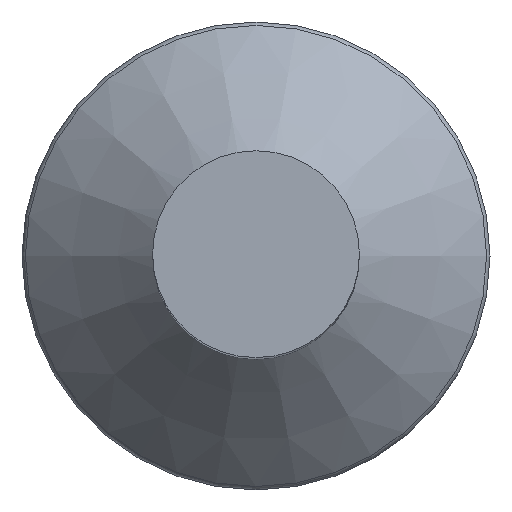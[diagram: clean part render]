
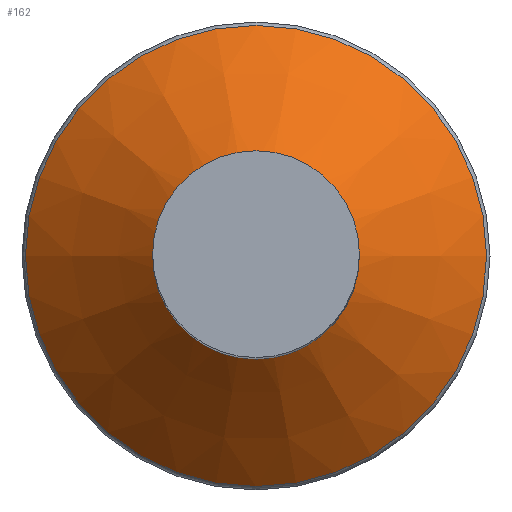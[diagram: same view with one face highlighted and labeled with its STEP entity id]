
A CAD part, top view. The second image highlights one B-rep face of the part: STEP entity #162.
In plain terms, the highlighted conical face has half-angle 45 degrees and reference radius 0.7 mm.
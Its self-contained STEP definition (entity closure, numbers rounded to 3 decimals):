
#61 = PLANE('',#62);
#62 = AXIS2_PLACEMENT_3D('',#63,#64,#65);
#63 = CARTESIAN_POINT('',(0.,0.,-1.2));
#64 = DIRECTION('',(0.,0.,1.));
#65 = DIRECTION('',(1.,0.,-0.));
#130 = EDGE_CURVE('',#131,#131,#133,.T.);
#131 = VERTEX_POINT('',#132);
#132 = CARTESIAN_POINT('',(0.7,0.,-1.2));
#133 = SURFACE_CURVE('',#134,(#139,#146),.PCURVE_S1.);
#134 = CIRCLE('',#135,0.7);
#135 = AXIS2_PLACEMENT_3D('',#136,#137,#138);
#136 = CARTESIAN_POINT('',(0.,0.,-1.2));
#137 = DIRECTION('',(0.,0.,1.));
#138 = DIRECTION('',(1.,0.,-0.));
#139 = PCURVE('',#61,#140);
#140 = DEFINITIONAL_REPRESENTATION('',(#141),#145);
#141 = CIRCLE('',#142,0.7);
#142 = AXIS2_PLACEMENT_2D('',#143,#144);
#143 = CARTESIAN_POINT('',(0.,0.));
#144 = DIRECTION('',(1.,0.));
#145 = ( GEOMETRIC_REPRESENTATION_CONTEXT(2) 
PARAMETRIC_REPRESENTATION_CONTEXT() REPRESENTATION_CONTEXT('2D SPACE',''
  ) );
#146 = PCURVE('',#147,#152);
#147 = CONICAL_SURFACE('',#148,0.7,0.785);
#148 = AXIS2_PLACEMENT_3D('',#149,#150,#151);
#149 = CARTESIAN_POINT('',(0.,0.,-1.2));
#150 = DIRECTION('',(0.,0.,1.));
#151 = DIRECTION('',(1.,0.,-0.));
#152 = DEFINITIONAL_REPRESENTATION('',(#153),#157);
#153 = LINE('',#154,#155);
#154 = CARTESIAN_POINT('',(0.,0.));
#155 = VECTOR('',#156,1.);
#156 = DIRECTION('',(1.,0.));
#157 = ( GEOMETRIC_REPRESENTATION_CONTEXT(2) 
PARAMETRIC_REPRESENTATION_CONTEXT() REPRESENTATION_CONTEXT('2D SPACE',''
  ) );
#162 = ADVANCED_FACE('',(#163),#147,.T.);
#163 = FACE_BOUND('',#164,.T.);
#164 = EDGE_LOOP('',(#165,#166,#189,#216));
#165 = ORIENTED_EDGE('',*,*,#130,.T.);
#166 = ORIENTED_EDGE('',*,*,#167,.T.);
#167 = EDGE_CURVE('',#131,#168,#170,.T.);
#168 = VERTEX_POINT('',#169);
#169 = CARTESIAN_POINT('',(1.746,0.,-0.154));
#170 = SEAM_CURVE('',#171,(#175,#182),.PCURVE_S1.);
#171 = LINE('',#172,#173);
#172 = CARTESIAN_POINT('',(0.7,0.,-1.2));
#173 = VECTOR('',#174,1.);
#174 = DIRECTION('',(0.707,0.,0.707));
#175 = PCURVE('',#147,#176);
#176 = DEFINITIONAL_REPRESENTATION('',(#177),#181);
#177 = LINE('',#178,#179);
#178 = CARTESIAN_POINT('',(6.283,0.));
#179 = VECTOR('',#180,1.);
#180 = DIRECTION('',(0.,1.));
#181 = ( GEOMETRIC_REPRESENTATION_CONTEXT(2) 
PARAMETRIC_REPRESENTATION_CONTEXT() REPRESENTATION_CONTEXT('2D SPACE',''
  ) );
#182 = PCURVE('',#147,#183);
#183 = DEFINITIONAL_REPRESENTATION('',(#184),#188);
#184 = LINE('',#185,#186);
#185 = CARTESIAN_POINT('',(0.,0.));
#186 = VECTOR('',#187,1.);
#187 = DIRECTION('',(0.,1.));
#188 = ( GEOMETRIC_REPRESENTATION_CONTEXT(2) 
PARAMETRIC_REPRESENTATION_CONTEXT() REPRESENTATION_CONTEXT('2D SPACE',''
  ) );
#189 = ORIENTED_EDGE('',*,*,#190,.F.);
#190 = EDGE_CURVE('',#168,#168,#191,.T.);
#191 = SURFACE_CURVE('',#192,(#197,#204),.PCURVE_S1.);
#192 = CIRCLE('',#193,1.746);
#193 = AXIS2_PLACEMENT_3D('',#194,#195,#196);
#194 = CARTESIAN_POINT('',(0.,0.,-0.154));
#195 = DIRECTION('',(0.,0.,1.));
#196 = DIRECTION('',(1.,0.,-0.));
#197 = PCURVE('',#147,#198);
#198 = DEFINITIONAL_REPRESENTATION('',(#199),#203);
#199 = LINE('',#200,#201);
#200 = CARTESIAN_POINT('',(0.,1.046));
#201 = VECTOR('',#202,1.);
#202 = DIRECTION('',(1.,0.));
#203 = ( GEOMETRIC_REPRESENTATION_CONTEXT(2) 
PARAMETRIC_REPRESENTATION_CONTEXT() REPRESENTATION_CONTEXT('2D SPACE',''
  ) );
#204 = PCURVE('',#205,#210);
#205 = TOROIDAL_SURFACE('',#206,1.683,0.09);
#206 = AXIS2_PLACEMENT_3D('',#207,#208,#209);
#207 = CARTESIAN_POINT('',(0.,0.,-0.09));
#208 = DIRECTION('',(-0.,-0.,-1.));
#209 = DIRECTION('',(1.,0.,-0.));
#210 = DEFINITIONAL_REPRESENTATION('',(#211),#215);
#211 = LINE('',#212,#213);
#212 = CARTESIAN_POINT('',(6.283,7.069));
#213 = VECTOR('',#214,1.);
#214 = DIRECTION('',(-1.,0.));
#215 = ( GEOMETRIC_REPRESENTATION_CONTEXT(2) 
PARAMETRIC_REPRESENTATION_CONTEXT() REPRESENTATION_CONTEXT('2D SPACE',''
  ) );
#216 = ORIENTED_EDGE('',*,*,#167,.F.);
